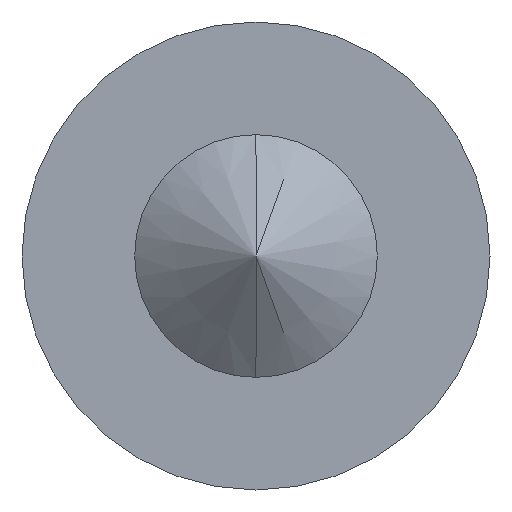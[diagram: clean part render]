
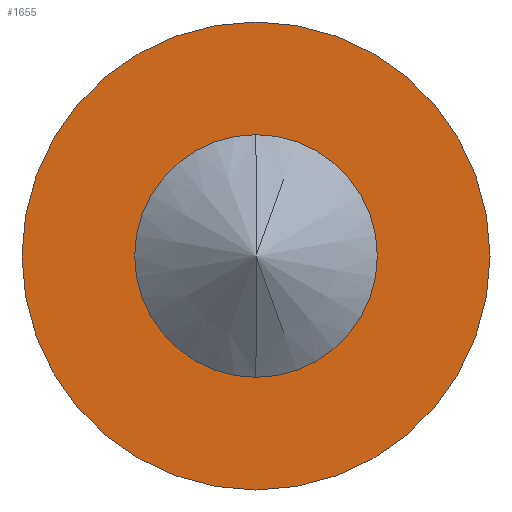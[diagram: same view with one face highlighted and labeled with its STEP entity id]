
A CAD part, left-side view. The second image highlights one B-rep face of the part: STEP entity #1655.
In plain terms, the highlighted planar face has unit normal (-1, 0, 0).
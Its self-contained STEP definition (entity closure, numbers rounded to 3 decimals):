
#61 = DIRECTION ( 'NONE',  ( -1., 0., 0. ) ) ;
#86 = AXIS2_PLACEMENT_3D ( 'NONE', #109, #102, #881 ) ;
#102 = DIRECTION ( 'NONE',  ( 1., 0., 0. ) ) ;
#109 = CARTESIAN_POINT ( 'NONE',  ( -8.345, 1.1, 0. ) ) ;
#202 = VERTEX_POINT ( 'NONE', #662 ) ;
#227 = AXIS2_PLACEMENT_3D ( 'NONE', #1104, #292, #1024 ) ;
#250 = DIRECTION ( 'NONE',  ( 0., 0., 1. ) ) ;
#260 = AXIS2_PLACEMENT_3D ( 'NONE', #665, #312, #1128 ) ;
#292 = DIRECTION ( 'NONE',  ( -1., 0., 0. ) ) ;
#299 = AXIS2_PLACEMENT_3D ( 'NONE', #1081, #61, #250 ) ;
#312 = DIRECTION ( 'NONE',  ( -1., 0., 0. ) ) ;
#313 = AXIS2_PLACEMENT_3D ( 'NONE', #1220, #541, #1478 ) ;
#389 = CARTESIAN_POINT ( 'NONE',  ( -8.345, 0., 2.7 ) ) ;
#455 = VERTEX_POINT ( 'NONE', #1639 ) ;
#522 = ORIENTED_EDGE ( 'NONE', *, *, #993, .T. ) ;
#527 = ORIENTED_EDGE ( 'NONE', *, *, #984, .F. ) ;
#541 = DIRECTION ( 'NONE',  ( -1., 0., 0. ) ) ;
#662 = CARTESIAN_POINT ( 'NONE',  ( -8.345, 0., 1.1 ) ) ;
#665 = CARTESIAN_POINT ( 'NONE',  ( -8.345, 0., 0. ) ) ;
#697 = CIRCLE ( 'NONE', #227, 1.1 ) ;
#881 = DIRECTION ( 'NONE',  ( 0., 0., -1. ) ) ;
#984 = EDGE_CURVE ( 'NONE', #1084, #202, #1662, .T. ) ;
#993 = EDGE_CURVE ( 'NONE', #455, #1449, #1659, .T. ) ;
#1024 = DIRECTION ( 'NONE',  ( 0., 0., 1. ) ) ;
#1081 = CARTESIAN_POINT ( 'NONE',  ( -8.345, 0., 0. ) ) ;
#1084 = VERTEX_POINT ( 'NONE', #1302 ) ;
#1094 = ORIENTED_EDGE ( 'NONE', *, *, #1257, .F. ) ;
#1104 = CARTESIAN_POINT ( 'NONE',  ( -8.345, 0., 0. ) ) ;
#1108 = EDGE_CURVE ( 'NONE', #1449, #455, #1285, .T. ) ;
#1128 = DIRECTION ( 'NONE',  ( 0., 0., 1. ) ) ;
#1203 = EDGE_LOOP ( 'NONE', ( #1419, #522 ) ) ;
#1220 = CARTESIAN_POINT ( 'NONE',  ( -8.345, 0., 0. ) ) ;
#1257 = EDGE_CURVE ( 'NONE', #202, #1084, #697, .T. ) ;
#1285 = CIRCLE ( 'NONE', #260, 2.7 ) ;
#1302 = CARTESIAN_POINT ( 'NONE',  ( -8.345, 0., -1.1 ) ) ;
#1320 = PLANE ( 'NONE',  #86 ) ;
#1419 = ORIENTED_EDGE ( 'NONE', *, *, #1108, .T. ) ;
#1449 = VERTEX_POINT ( 'NONE', #389 ) ;
#1468 = FACE_OUTER_BOUND ( 'NONE', #1203, .T. ) ;
#1478 = DIRECTION ( 'NONE',  ( 0., 0., 1. ) ) ;
#1497 = EDGE_LOOP ( 'NONE', ( #1094, #527 ) ) ;
#1543 = FACE_BOUND ( 'NONE', #1497, .T. ) ;
#1639 = CARTESIAN_POINT ( 'NONE',  ( -8.345, 0., -2.7 ) ) ;
#1655 = ADVANCED_FACE ( 'NONE', ( #1543, #1468 ), #1320, .F. ) ;
#1659 = CIRCLE ( 'NONE', #299, 2.7 ) ;
#1662 = CIRCLE ( 'NONE', #313, 1.1 ) ;
